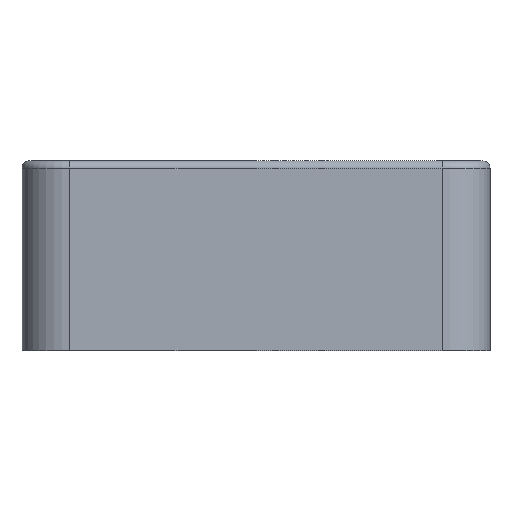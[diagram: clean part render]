
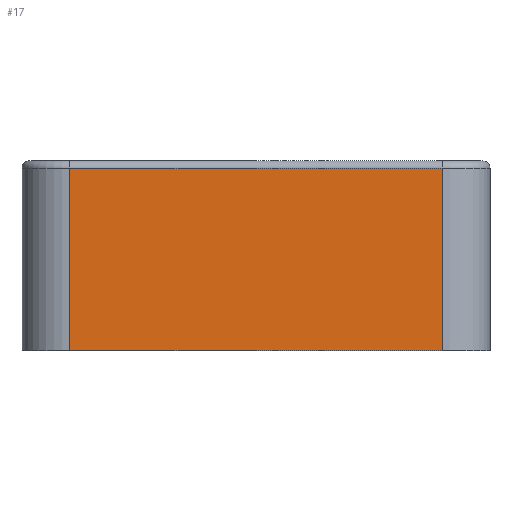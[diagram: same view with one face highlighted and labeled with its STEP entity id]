
A CAD part, left-side view. The second image highlights one B-rep face of the part: STEP entity #17.
In plain terms, the highlighted planar face has unit normal (-1, 0, 0).
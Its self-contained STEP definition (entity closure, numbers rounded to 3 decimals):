
#17 = ADVANCED_FACE('',(#18),#32,.F.);
#18 = FACE_BOUND('',#19,.F.);
#19 = EDGE_LOOP('',(#20,#55,#83,#111));
#20 = ORIENTED_EDGE('',*,*,#21,.F.);
#21 = EDGE_CURVE('',#22,#24,#26,.T.);
#22 = VERTEX_POINT('',#23);
#23 = CARTESIAN_POINT('',(-11.7,-4.3,13.3));
#24 = VERTEX_POINT('',#25);
#25 = CARTESIAN_POINT('',(-11.7,-4.3,22.45));
#26 = SURFACE_CURVE('',#27,(#31,#43),.PCURVE_S1.);
#27 = LINE('',#28,#29);
#28 = CARTESIAN_POINT('',(-11.7,-4.3,13.3));
#29 = VECTOR('',#30,1.);
#30 = DIRECTION('',(0.,0.,1.));
#31 = PCURVE('',#32,#37);
#32 = PLANE('',#33);
#33 = AXIS2_PLACEMENT_3D('',#34,#35,#36);
#34 = CARTESIAN_POINT('',(-11.7,-6.7,13.3));
#35 = DIRECTION('',(1.,0.,0.));
#36 = DIRECTION('',(0.,0.,1.));
#37 = DEFINITIONAL_REPRESENTATION('',(#38),#42);
#38 = LINE('',#39,#40);
#39 = CARTESIAN_POINT('',(0.,-2.4));
#40 = VECTOR('',#41,1.);
#41 = DIRECTION('',(1.,0.));
#42 = ( GEOMETRIC_REPRESENTATION_CONTEXT(2) 
PARAMETRIC_REPRESENTATION_CONTEXT() REPRESENTATION_CONTEXT('2D SPACE',''
  ) );
#43 = PCURVE('',#44,#49);
#44 = CYLINDRICAL_SURFACE('',#45,2.4);
#45 = AXIS2_PLACEMENT_3D('',#46,#47,#48);
#46 = CARTESIAN_POINT('',(-9.3,-4.3,13.3));
#47 = DIRECTION('',(0.,0.,1.));
#48 = DIRECTION('',(-1.,-0.,0.));
#49 = DEFINITIONAL_REPRESENTATION('',(#50),#54);
#50 = LINE('',#51,#52);
#51 = CARTESIAN_POINT('',(0.,0.));
#52 = VECTOR('',#53,1.);
#53 = DIRECTION('',(0.,1.));
#54 = ( GEOMETRIC_REPRESENTATION_CONTEXT(2) 
PARAMETRIC_REPRESENTATION_CONTEXT() REPRESENTATION_CONTEXT('2D SPACE',''
  ) );
#55 = ORIENTED_EDGE('',*,*,#56,.T.);
#56 = EDGE_CURVE('',#22,#57,#59,.T.);
#57 = VERTEX_POINT('',#58);
#58 = CARTESIAN_POINT('',(-11.7,14.3,13.3));
#59 = SURFACE_CURVE('',#60,(#64,#71),.PCURVE_S1.);
#60 = LINE('',#61,#62);
#61 = CARTESIAN_POINT('',(-11.7,-6.7,13.3));
#62 = VECTOR('',#63,1.);
#63 = DIRECTION('',(0.,1.,0.));
#64 = PCURVE('',#32,#65);
#65 = DEFINITIONAL_REPRESENTATION('',(#66),#70);
#66 = LINE('',#67,#68);
#67 = CARTESIAN_POINT('',(0.,0.));
#68 = VECTOR('',#69,1.);
#69 = DIRECTION('',(0.,-1.));
#70 = ( GEOMETRIC_REPRESENTATION_CONTEXT(2) 
PARAMETRIC_REPRESENTATION_CONTEXT() REPRESENTATION_CONTEXT('2D SPACE',''
  ) );
#71 = PCURVE('',#72,#77);
#72 = PLANE('',#73);
#73 = AXIS2_PLACEMENT_3D('',#74,#75,#76);
#74 = CARTESIAN_POINT('',(-11.7,-6.7,13.3));
#75 = DIRECTION('',(0.,0.,1.));
#76 = DIRECTION('',(1.,0.,0.));
#77 = DEFINITIONAL_REPRESENTATION('',(#78),#82);
#78 = LINE('',#79,#80);
#79 = CARTESIAN_POINT('',(0.,0.));
#80 = VECTOR('',#81,1.);
#81 = DIRECTION('',(0.,1.));
#82 = ( GEOMETRIC_REPRESENTATION_CONTEXT(2) 
PARAMETRIC_REPRESENTATION_CONTEXT() REPRESENTATION_CONTEXT('2D SPACE',''
  ) );
#83 = ORIENTED_EDGE('',*,*,#84,.T.);
#84 = EDGE_CURVE('',#57,#85,#87,.T.);
#85 = VERTEX_POINT('',#86);
#86 = CARTESIAN_POINT('',(-11.7,14.3,22.45));
#87 = SURFACE_CURVE('',#88,(#92,#99),.PCURVE_S1.);
#88 = LINE('',#89,#90);
#89 = CARTESIAN_POINT('',(-11.7,14.3,13.3));
#90 = VECTOR('',#91,1.);
#91 = DIRECTION('',(0.,0.,1.));
#92 = PCURVE('',#32,#93);
#93 = DEFINITIONAL_REPRESENTATION('',(#94),#98);
#94 = LINE('',#95,#96);
#95 = CARTESIAN_POINT('',(0.,-21.));
#96 = VECTOR('',#97,1.);
#97 = DIRECTION('',(1.,0.));
#98 = ( GEOMETRIC_REPRESENTATION_CONTEXT(2) 
PARAMETRIC_REPRESENTATION_CONTEXT() REPRESENTATION_CONTEXT('2D SPACE',''
  ) );
#99 = PCURVE('',#100,#105);
#100 = CYLINDRICAL_SURFACE('',#101,2.4);
#101 = AXIS2_PLACEMENT_3D('',#102,#103,#104);
#102 = CARTESIAN_POINT('',(-9.3,14.3,13.3));
#103 = DIRECTION('',(0.,0.,1.));
#104 = DIRECTION('',(-1.,-0.,0.));
#105 = DEFINITIONAL_REPRESENTATION('',(#106),#110);
#106 = LINE('',#107,#108);
#107 = CARTESIAN_POINT('',(-0.,0.));
#108 = VECTOR('',#109,1.);
#109 = DIRECTION('',(-0.,1.));
#110 = ( GEOMETRIC_REPRESENTATION_CONTEXT(2) 
PARAMETRIC_REPRESENTATION_CONTEXT() REPRESENTATION_CONTEXT('2D SPACE',''
  ) );
#111 = ORIENTED_EDGE('',*,*,#112,.F.);
#112 = EDGE_CURVE('',#24,#85,#113,.T.);
#113 = SURFACE_CURVE('',#114,(#118,#125),.PCURVE_S1.);
#114 = LINE('',#115,#116);
#115 = CARTESIAN_POINT('',(-11.7,-4.3,22.45));
#116 = VECTOR('',#117,1.);
#117 = DIRECTION('',(0.,1.,0.));
#118 = PCURVE('',#32,#119);
#119 = DEFINITIONAL_REPRESENTATION('',(#120),#124);
#120 = LINE('',#121,#122);
#121 = CARTESIAN_POINT('',(9.15,-2.4));
#122 = VECTOR('',#123,1.);
#123 = DIRECTION('',(0.,-1.));
#124 = ( GEOMETRIC_REPRESENTATION_CONTEXT(2) 
PARAMETRIC_REPRESENTATION_CONTEXT() REPRESENTATION_CONTEXT('2D SPACE',''
  ) );
#125 = PCURVE('',#126,#131);
#126 = CYLINDRICAL_SURFACE('',#127,0.35);
#127 = AXIS2_PLACEMENT_3D('',#128,#129,#130);
#128 = CARTESIAN_POINT('',(-11.35,-4.3,22.45));
#129 = DIRECTION('',(0.,1.,0.));
#130 = DIRECTION('',(-1.,0.,0.));
#131 = DEFINITIONAL_REPRESENTATION('',(#132),#136);
#132 = LINE('',#133,#134);
#133 = CARTESIAN_POINT('',(0.,0.));
#134 = VECTOR('',#135,1.);
#135 = DIRECTION('',(0.,1.));
#136 = ( GEOMETRIC_REPRESENTATION_CONTEXT(2) 
PARAMETRIC_REPRESENTATION_CONTEXT() REPRESENTATION_CONTEXT('2D SPACE',''
  ) );
